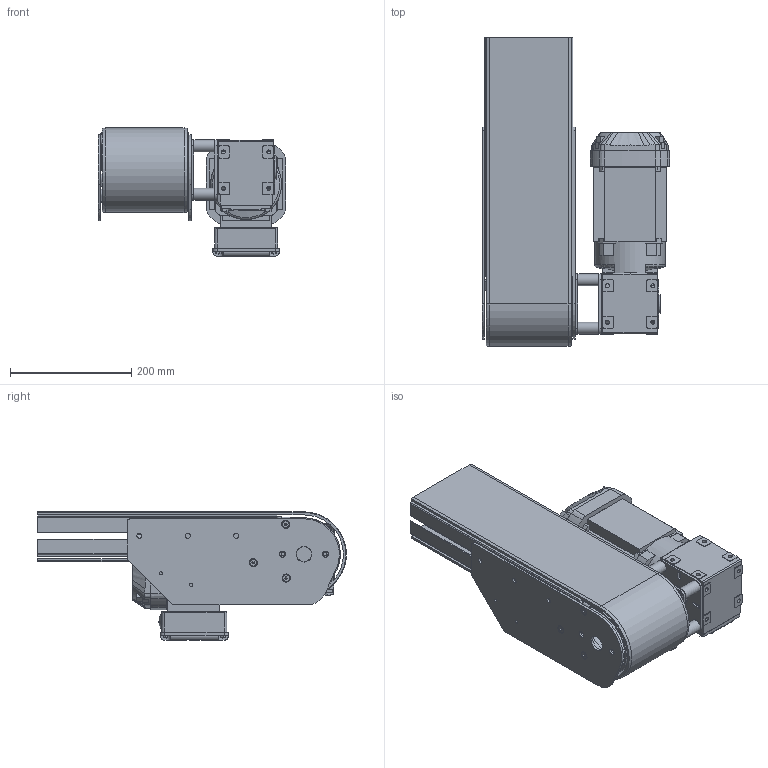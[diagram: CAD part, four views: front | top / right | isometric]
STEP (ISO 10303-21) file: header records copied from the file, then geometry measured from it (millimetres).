
FILE_DESCRIPTION(/* description */ ('DRIVE UNIT S540'),/* implementation_level */ '2;1');
FILE_NAME(/* name */ '540-30-HL.stp',/* time_stamp */ '2022-09-21T07:31:06+02:00',/* author */ ('PL'),/* organization */ ('CARRYLINE'),/* preprocessor_version */ 'ST-DEVELOPER v19.2',/* originating_system */ 'Autodesk Inventor 2023',/* authorisation */ '');
FILE_SCHEMA (('AUTOMOTIVE_DESIGN { 1 0 10303 214 3 1 1 }'));
Length unit declared in the file: millimetre
Products named in the file (6): 540-30-HL; Drivände S540; 900-4030; 500-3077; 500-3150; 500-3075
Assembly tree (8 placements, depth 2):
  540-30-HL
    Drivände S540
    900-4030
    500-3077
    500-3150  x4
    500-3075
Bounding box: 310.41 x 509.96 x 211.8 mm (x, y, z)
Volume: 6109044.3 mm3; surface area: 1050818.6 mm2
Topology: 8 solids, 10 shells, 1152 faces, 3109 edges, 2020 vertices
Faces by surface type: plane 603, cylinder 424, cone 89, bspline 33, sphere 2, torus 1
Full cylindrical faces by diameter (mm): 5.2 x4, 6 x15, 6.2 x6, 6.6 x8, 6.647 x4, 8.2 x6, 10.2 x4, 11 x8, 11.34 x6, 20 x5, 25 x1, 26 x3, 28 x1, 30 x2, 37 x1, 117 x1
Entity records: 38579 total; most frequent: CARTESIAN_POINT 8892, DIRECTION 6123, ORIENTED_EDGE 6114, EDGE_CURVE 3057, AXIS2_PLACEMENT_3D 2125, VERTEX_POINT 1993, LINE 1873, VECTOR 1873
